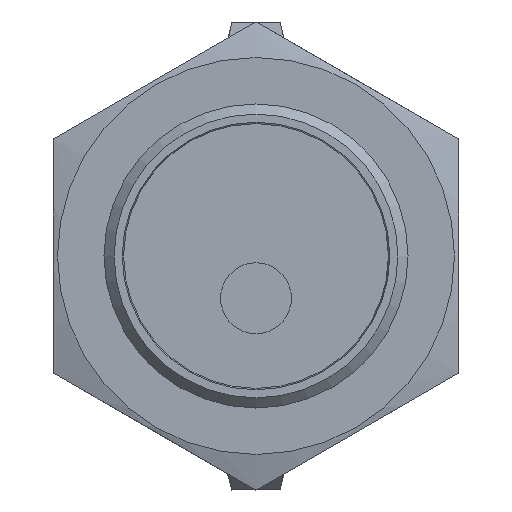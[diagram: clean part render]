
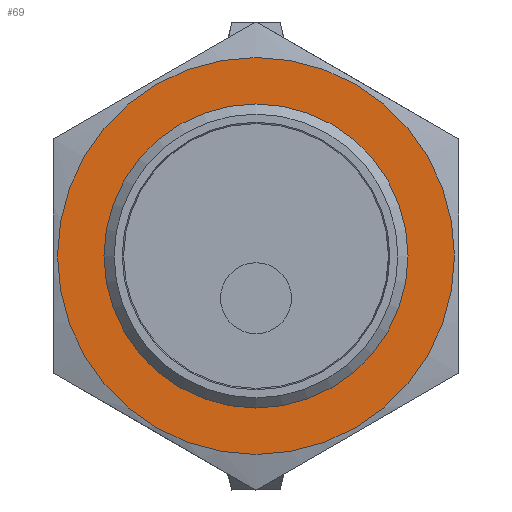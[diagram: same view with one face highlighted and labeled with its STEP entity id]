
A CAD part, left-side view. The second image highlights one B-rep face of the part: STEP entity #69.
In plain terms, the highlighted planar face has unit normal (-1, 0, 0) as drawn and (0, -1, 0) by its records, which use the part's own axes.
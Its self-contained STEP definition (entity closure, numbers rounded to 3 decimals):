
#69 = ADVANCED_FACE( '', ( #156, #157 ), #158, .F. );
#156 = FACE_BOUND( '', #274, .T. );
#157 = FACE_OUTER_BOUND( '', #275, .T. );
#158 = PLANE( '', #276 );
#274 = EDGE_LOOP( '', ( #406 ) );
#275 = EDGE_LOOP( '', ( #407 ) );
#276 = AXIS2_PLACEMENT_3D( '', #408, #409, #410 );
#406 = ORIENTED_EDGE( '', *, *, #614, .F. );
#407 = ORIENTED_EDGE( '', *, *, #615, .T. );
#408 = CARTESIAN_POINT( '', ( 0., -2., 0. ) );
#409 = DIRECTION( '', ( 0., 1., 0. ) );
#410 = DIRECTION( '', ( 0., 0., 1. ) );
#614 = EDGE_CURVE( '', #710, #710, #711, .T. );
#615 = EDGE_CURVE( '', #712, #712, #713, .T. );
#710 = VERTEX_POINT( '', #889 );
#711 = CIRCLE( '', #890, 8.459 );
#712 = VERTEX_POINT( '', #891 );
#713 = CIRCLE( '', #892, 11.75 );
#889 = CARTESIAN_POINT( '', ( 8.459, -2., 0. ) );
#890 = AXIS2_PLACEMENT_3D( '', #1049, #1050, #1051 );
#891 = CARTESIAN_POINT( '', ( 0., -2., -11.75 ) );
#892 = AXIS2_PLACEMENT_3D( '', #1052, #1053, #1054 );
#1049 = CARTESIAN_POINT( '', ( 0., -2., 0. ) );
#1050 = DIRECTION( '', ( 0., -1., 0. ) );
#1051 = DIRECTION( '', ( 1., 0., 0. ) );
#1052 = CARTESIAN_POINT( '', ( 0., -2., 0. ) );
#1053 = DIRECTION( '', ( 0., -1., 0. ) );
#1054 = DIRECTION( '', ( 0., 0., -1. ) );
